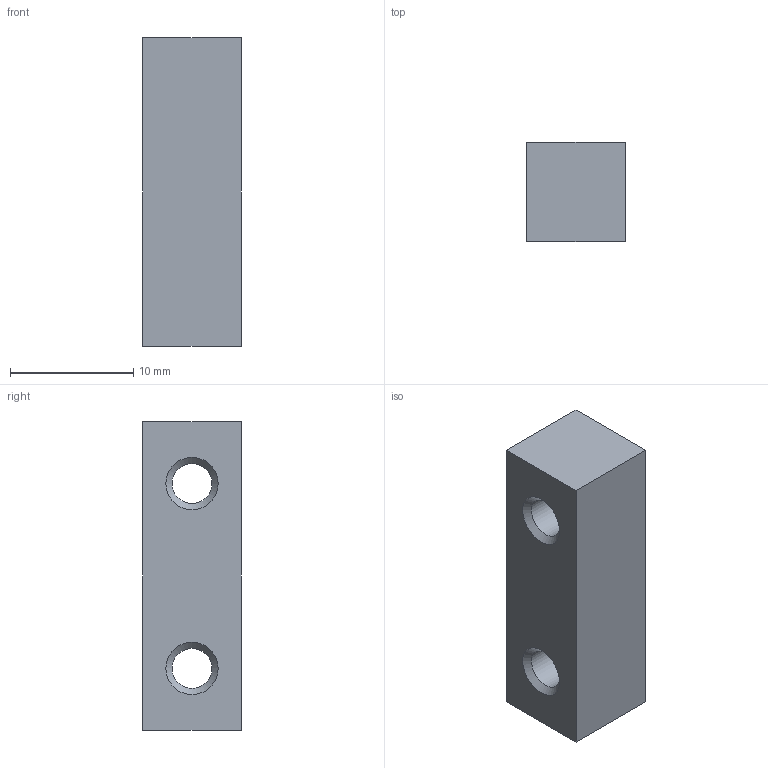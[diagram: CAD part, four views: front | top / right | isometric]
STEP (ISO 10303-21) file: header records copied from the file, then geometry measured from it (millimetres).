
FILE_DESCRIPTION(('STEP AP203'), '1');
FILE_NAME('眐珆1801.01.03.00.078 - 逄闉', '', ('UNSPECIFIED'), ('UNSPECIFIED'), 'C3D Converter', 'C3D Toolkit', '');
FILE_SCHEMA(('CONFIG_CONTROL_DESIGN'));
Length unit declared in the file: millimetre
Products named in the file (1): ТППФ1801.01.03.00.078
Bounding box: 8 x 8 x 25 mm (x, y, z)
Volume: 1465.1 mm3; surface area: 1052.6 mm2
Topology: 1 solids, 1 shells, 10 faces, 22 edges, 14 vertices
Faces by surface type: plane 6, cylinder 2, cone 2
Full cylindrical faces by diameter (mm): 3.242 x2
Entity records: 384 total; most frequent: DIRECTION 46, CARTESIAN_POINT 43, ORIENTED_EDGE 36, EDGE_LOOP 18, EDGE_CURVE 18, AXIS2_PLACEMENT_3D 17, VERTEX_POINT 14, LINE 12
